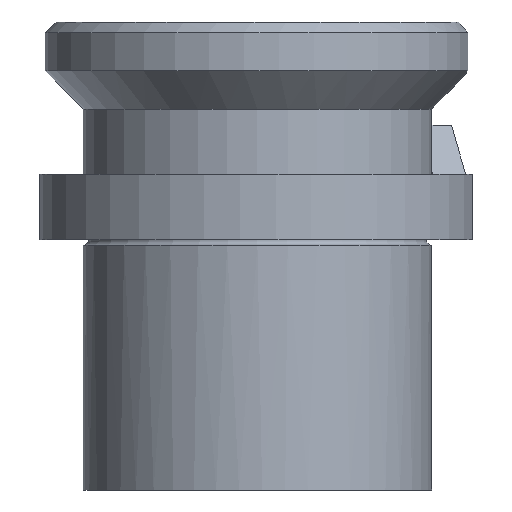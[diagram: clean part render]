
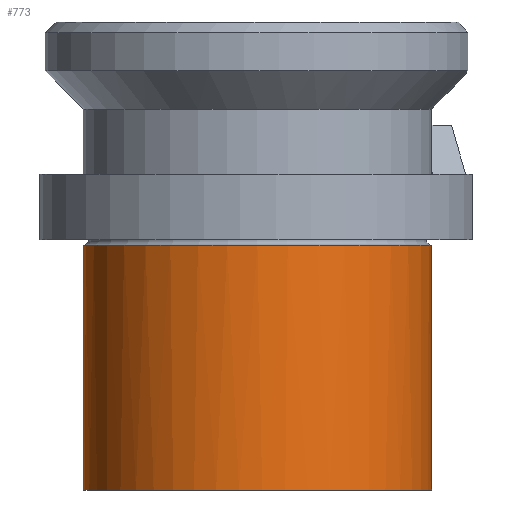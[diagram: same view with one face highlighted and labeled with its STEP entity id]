
A CAD part, front view. The second image highlights one B-rep face of the part: STEP entity #773.
In plain terms, the highlighted cylindrical face has radius 16 mm (diameter 32 mm), a partial arc.
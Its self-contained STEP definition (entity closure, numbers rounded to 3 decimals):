
#402=CARTESIAN_POINT('Control Point',(-16.,0.,-23.)) ;
#403=CARTESIAN_POINT('Control Point',(-16.,-1.568,-23.)) ;
#404=CARTESIAN_POINT('Control Point',(-15.808,-3.135,-23.)) ;
#405=CARTESIAN_POINT('Control Point',(-15.424,-4.672,-23.)) ;
#406=CARTESIAN_POINT('Control Point',(-14.288,-7.619,-23.)) ;
#407=CARTESIAN_POINT('Control Point',(-12.473,-10.205,-23.)) ;
#408=CARTESIAN_POINT('Control Point',(-11.412,-11.38,-23.)) ;
#409=CARTESIAN_POINT('Control Point',(-9.022,-13.446,-23.)) ;
#410=CARTESIAN_POINT('Control Point',(-6.205,-14.874,-23.)) ;
#411=CARTESIAN_POINT('Control Point',(-4.715,-15.411,-23.)) ;
#412=CARTESIAN_POINT('Control Point',(-1.634,-16.109,-23.)) ;
#413=CARTESIAN_POINT('Control Point',(1.524,-16.044,-23.)) ;
#414=CARTESIAN_POINT('Control Point',(3.091,-15.817,-23.)) ;
#415=CARTESIAN_POINT('Control Point',(6.138,-14.984,-23.)) ;
#416=CARTESIAN_POINT('Control Point',(8.894,-13.44,-23.)) ;
#417=CARTESIAN_POINT('Control Point',(10.17,-12.502,-23.)) ;
#418=CARTESIAN_POINT('Control Point',(12.466,-10.333,-23.)) ;
#419=CARTESIAN_POINT('Control Point',(14.171,-7.674,-23.)) ;
#420=CARTESIAN_POINT('Control Point',(14.856,-6.246,-23.)) ;
#421=CARTESIAN_POINT('Control Point',(15.567,-4.131,-23.)) ;
#422=CARTESIAN_POINT('Control Point',(15.902,-1.939,-23.)) ;
#423=CARTESIAN_POINT('Control Point',(15.967,-1.294,-23.)) ;
#424=CARTESIAN_POINT('Control Point',(16.,-0.647,-23.)) ;
#425=CARTESIAN_POINT('Control Point',(16.,0.,-23.)) ;
#426=CARTESIAN_POINT('Vertex',(-16.,0.,-23.)) ;
#428=CARTESIAN_POINT('Vertex',(16.,0.,-23.)) ;
#743=CARTESIAN_POINT('Axis2P3D Location',(0.,0.,20.)) ;
#748=CARTESIAN_POINT('Line Origine',(16.,0.,20.)) ;
#752=CARTESIAN_POINT('Vertex',(16.,0.,-0.5)) ;
#755=CARTESIAN_POINT('Axis2P3D Location',(0.,0.,-0.5)) ;
#759=CARTESIAN_POINT('Vertex',(-16.,0.,-0.5)) ;
#762=CARTESIAN_POINT('Line Origine',(-16.,0.,20.)) ;
#744=DIRECTION('Axis2P3D Direction',(0.,0.,-1.)) ;
#745=DIRECTION('Axis2P3D XDirection',(1.,0.,0.)) ;
#749=DIRECTION('Vector Direction',(0.,0.,-1.)) ;
#756=DIRECTION('Axis2P3D Direction',(0.,0.,-1.)) ;
#763=DIRECTION('Vector Direction',(0.,0.,-1.)) ;
#746=AXIS2_PLACEMENT_3D('Cylinder Axis2P3D',#743,#744,#745) ;
#757=AXIS2_PLACEMENT_3D('Circle Axis2P3D',#755,#756,$) ;
#768=ORIENTED_EDGE('',*,*,#754,.T.) ;
#769=ORIENTED_EDGE('',*,*,#761,.F.) ;
#770=ORIENTED_EDGE('',*,*,#766,.T.) ;
#771=ORIENTED_EDGE('',*,*,#430,.T.) ;
#750=VECTOR('Line Direction',#749,1.) ;
#764=VECTOR('Line Direction',#763,1.) ;
#773=ADVANCED_FACE('741-20',(#772),#747,.T.) ;
#401=B_SPLINE_CURVE_WITH_KNOTS('',5,(#402,#403,#404,#405,#406,#407,#408,#409,#410,#411,#412,#413,#414,#415,#416,#417,#418,#419,#420,#421,#422,#423,#424,#425),.UNSPECIFIED.,.F.,.U.,(6,3,3,3,3,3,3,6),(0.,11.085,22.17,33.255,44.34,55.425,66.51,71.085),.UNSPECIFIED.) ;
#758=CIRCLE('generated circle',#757,16.) ;
#747=CYLINDRICAL_SURFACE('generated cylinder',#746,16.) ;
#430=EDGE_CURVE('',#427,#429,#401,.T.) ;
#754=EDGE_CURVE('',#429,#753,#751,.F.) ;
#761=EDGE_CURVE('',#760,#753,#758,.F.) ;
#766=EDGE_CURVE('',#760,#427,#765,.T.) ;
#767=EDGE_LOOP('',(#768,#769,#770,#771)) ;
#772=FACE_OUTER_BOUND('',#767,.T.) ;
#751=LINE('Line',#748,#750) ;
#765=LINE('Line',#762,#764) ;
#427=VERTEX_POINT('',#426) ;
#429=VERTEX_POINT('',#428) ;
#753=VERTEX_POINT('',#752) ;
#760=VERTEX_POINT('',#759) ;
